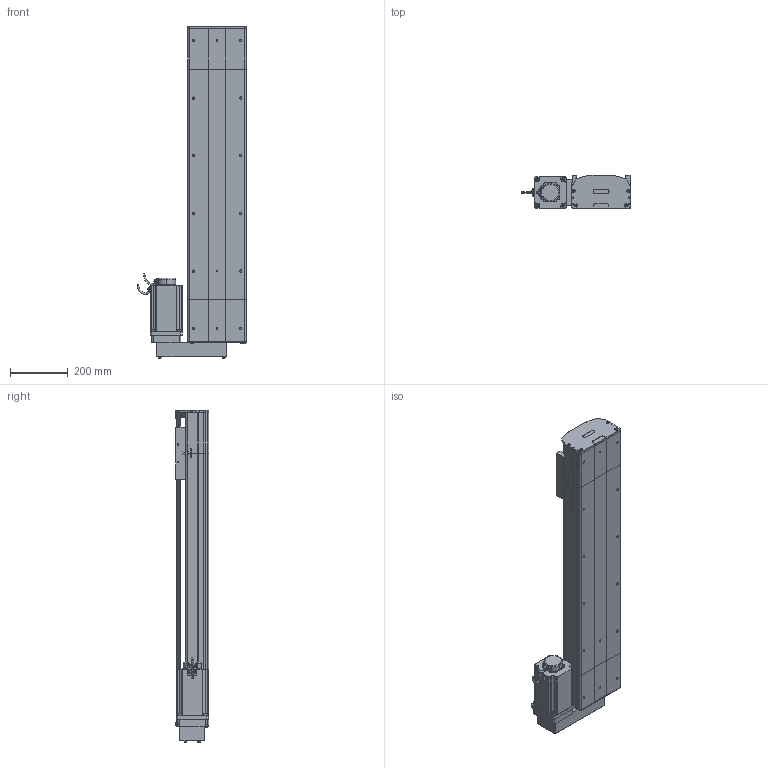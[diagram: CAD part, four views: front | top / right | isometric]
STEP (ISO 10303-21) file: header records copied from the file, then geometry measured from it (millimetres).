
FILE_DESCRIPTION (( 'STEP AP214' ), '1' );
FILE_NAME ('D20 TSH BL S800.STEP', '2010-06-30T08:36:37', ( 'Conseil Régional Haute-Normandie' ), ( 'Conseil Régional Haute-Normandie' ), 'SwSTEP 2.0', 'SolidWorks 2010', '' );
FILE_SCHEMA (( 'AUTOMOTIVE_DESIGN' ));
Length unit declared in the file: millimetre
Products named in the file (35): Plaque racord D20_Default; Conecteur2_Default; corps 110BLDC170A-630x; avant 110BLDC170A-630x; codeur 110BLDC170A-630x; Moteur motionking 110BLDC170A-640x; vis M8 L12_Default; tete d''axe bas D20; corpl tail D20_Default; Chariot D20; chariot D20S_Default; tail D20 S_Default; vis M5 L70_Default; renvoi  BR_Default; guide D20; Conecteur_Default; 2 vis M5 L12_Default; couvercle tail D20_Default; plaque de  bout tail D20_Default; Arbre+rail tail D20; tete d''axe haut D20; vis M5 L12_Default; clavette; vis M5 L25_Default; vis M5 L8 90°_Default; head BL D20_Default; couvercle D20 S800_Default; rail + arbre  D20 S800; corp D20 S800_Default; couvercle head l D20_Default; Arbre+rail head D20; D20 TSH BL S800; plaque de  bout head BR D20_Default; corpl head MD D20_Default; course D20 L800_Default
Assembly tree (59 placements, depth 4):
  D20 TSH BL S800
    tail D20 S_Default
      2 vis M5 L12_Default  x4
      corpl tail D20_Default
      vis M5 L8 90°_Default  x2
      Arbre+rail tail D20
      vis M5 L25_Default  x2
      tete d''axe bas D20
      couvercle tail D20_Default
      tete d''axe haut D20
      plaque de  bout tail D20_Default
    head BL D20_Default
      renvoi  BR_Default
      vis M8 L12_Default  x4
      vis M5 L25_Default  x2
      2 vis M5 L12_Default  x6
      Moteur motionking 110BLDC170A-640x
        clavette
        codeur 110BLDC170A-630x
        corps 110BLDC170A-630x
        Conecteur_Default
        avant 110BLDC170A-630x
        Conecteur2_Default
      Arbre+rail head D20
      Plaque racord D20_Default
      vis M5 L12_Default  x2
      vis M5 L70_Default  x4
      corpl head MD D20_Default
      plaque de  bout head BR D20_Default
      couvercle head l D20_Default
    chariot D20S_Default
      vis M5 L12_Default  x4
      Chariot D20
      guide D20  x2
    course D20 L800_Default
      couvercle D20 S800_Default
      rail + arbre  D20 S800
      corp D20 S800_Default
Bounding box: 380 x 115.7 x 1151.7 mm (x, y, z)
Volume: 11789840.1 mm3; surface area: 2422571 mm2
Topology: 84 solids, 84 shells, 2320 faces, 5816 edges, 3755 vertices
Faces by surface type: plane 1380, cylinder 652, bspline 136, torus 77, cone 71, sphere 4
Entity records: 75207 total; most frequent: CARTESIAN_POINT 24579, ORIENTED_EDGE 8928, DIRECTION 8427, EDGE_CURVE 4464, VECTOR 2945, LINE 2945, VERTEX_POINT 2937, AXIS2_PLACEMENT_3D 2741
